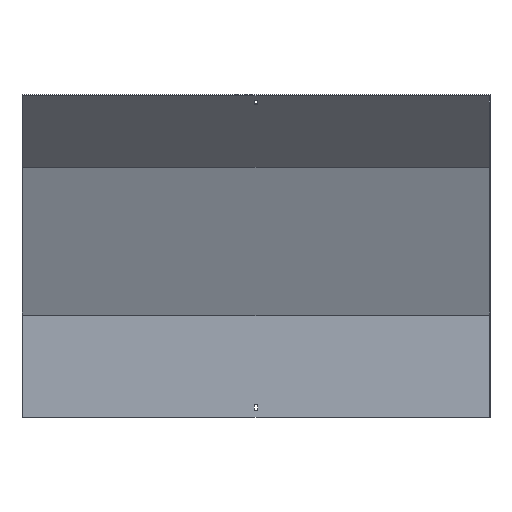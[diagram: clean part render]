
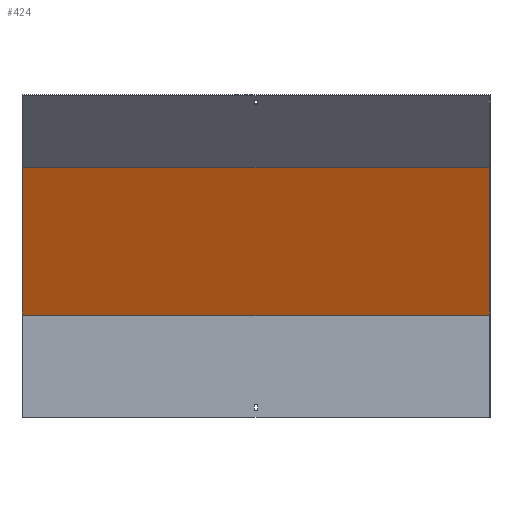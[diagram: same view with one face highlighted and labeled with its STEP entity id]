
A CAD part, front view. The second image highlights one B-rep face of the part: STEP entity #424.
In plain terms, the highlighted planar face has unit normal (0, -0.924, -0.383).
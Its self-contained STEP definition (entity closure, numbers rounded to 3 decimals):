
#18 = AXIS2_PLACEMENT_3D ( 'NONE', #430, #698, #40 ) ;
#36 = DIRECTION ( 'NONE',  ( 0., -0.383, 0.924 ) ) ;
#40 = DIRECTION ( 'NONE',  ( 0., 0.383, -0.924 ) ) ;
#83 = VERTEX_POINT ( 'NONE', #456 ) ;
#96 = VERTEX_POINT ( 'NONE', #462 ) ;
#119 = DIRECTION ( 'NONE',  ( -1., 0., 0. ) ) ;
#137 = CARTESIAN_POINT ( 'NONE',  ( 400., -87.258, 429.003 ) ) ;
#149 = LINE ( 'NONE', #284, #840 ) ;
#151 = VERTEX_POINT ( 'NONE', #137 ) ;
#167 = FACE_OUTER_BOUND ( 'NONE', #448, .T. ) ;
#176 = CARTESIAN_POINT ( 'NONE',  ( 401.5, -87.258, 429.003 ) ) ;
#189 = ORIENTED_EDGE ( 'NONE', *, *, #763, .T. ) ;
#218 = ORIENTED_EDGE ( 'NONE', *, *, #469, .F. ) ;
#284 = CARTESIAN_POINT ( 'NONE',  ( -400., 77.196, 31.976 ) ) ;
#309 = EDGE_CURVE ( 'NONE', #83, #96, #149, .T. ) ;
#384 = LINE ( 'NONE', #447, #507 ) ;
#418 = VERTEX_POINT ( 'NONE', #825 ) ;
#424 = ADVANCED_FACE ( 'NONE', ( #167 ), #500, .T. ) ;
#430 = CARTESIAN_POINT ( 'NONE',  ( 401.5, 17.092, 177.08 ) ) ;
#447 = CARTESIAN_POINT ( 'NONE',  ( 401.5, 18.5, 173.68 ) ) ;
#448 = EDGE_LOOP ( 'NONE', ( #580, #218, #807, #189 ) ) ;
#456 = CARTESIAN_POINT ( 'NONE',  ( -400., 18.5, 173.68 ) ) ;
#462 = CARTESIAN_POINT ( 'NONE',  ( -400., -87.258, 429.003 ) ) ;
#469 = EDGE_CURVE ( 'NONE', #418, #83, #384, .T. ) ;
#478 = VECTOR ( 'NONE', #704, 1000. ) ;
#500 = PLANE ( 'NONE',  #18 ) ;
#507 = VECTOR ( 'NONE', #119, 1000. ) ;
#558 = DIRECTION ( 'NONE',  ( 0., -0.383, 0.924 ) ) ;
#580 = ORIENTED_EDGE ( 'NONE', *, *, #309, .F. ) ;
#662 = EDGE_CURVE ( 'NONE', #418, #151, #809, .T. ) ;
#666 = CARTESIAN_POINT ( 'NONE',  ( 400., 77.196, 31.976 ) ) ;
#698 = DIRECTION ( 'NONE',  ( 0., -0.924, -0.383 ) ) ;
#704 = DIRECTION ( 'NONE',  ( -1., 0., 0. ) ) ;
#763 = EDGE_CURVE ( 'NONE', #151, #96, #774, .T. ) ;
#774 = LINE ( 'NONE', #176, #478 ) ;
#807 = ORIENTED_EDGE ( 'NONE', *, *, #662, .T. ) ;
#809 = LINE ( 'NONE', #666, #818 ) ;
#818 = VECTOR ( 'NONE', #558, 1000. ) ;
#825 = CARTESIAN_POINT ( 'NONE',  ( 400., 18.5, 173.68 ) ) ;
#840 = VECTOR ( 'NONE', #36, 1000. ) ;
